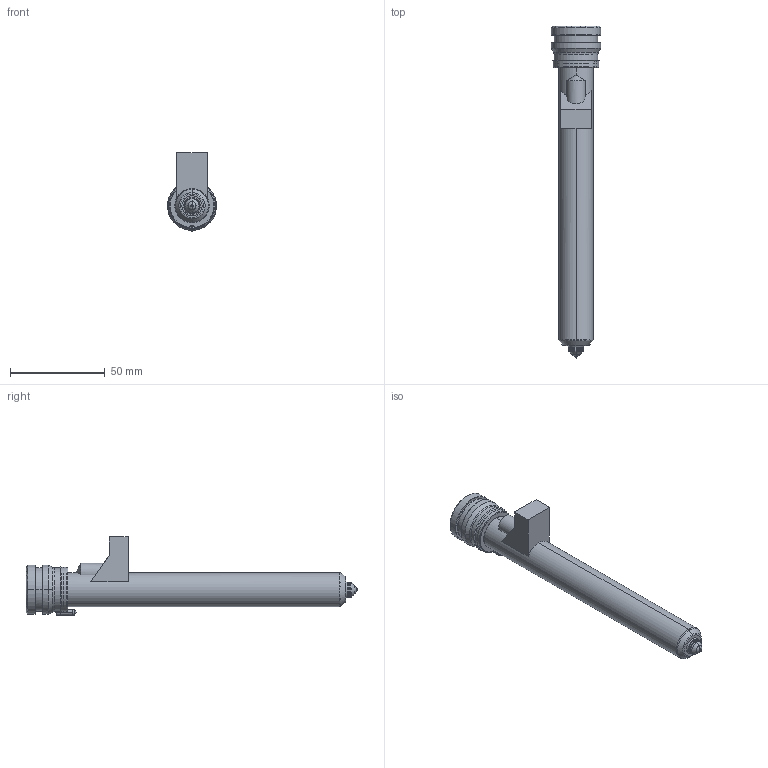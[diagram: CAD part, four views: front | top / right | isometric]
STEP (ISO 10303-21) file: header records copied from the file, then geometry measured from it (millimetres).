
FILE_DESCRIPTION((''),'2;1');
FILE_NAME('MPN-08-24-VX8-156-M','2026-02-05T13:31:37',('UPTIO'),('Thermoplay S.p.A.'),'CREO PARAMETRIC BY PTC INC, 2023494','CREO PARAMETRIC BY PTC INC, 2023494','');
FILE_SCHEMA(('CONFIG_CONTROL_DESIGN','SHAPE_APPEARANCE_LAYERS_GROUPS'));
Length unit declared in the file: millimetre
Products named in the file (1): MPN-08-24-VX8-156-M
Bounding box: 26 x 175.5 x 41.5 mm (x, y, z)
Volume: 32994.7 mm3; surface area: 44130.7 mm2
Topology: 2 solids, 3 shells, 529 faces, 1372 edges, 842 vertices
Faces by surface type: cylinder 174, plane 143, bspline 77, torus 60, cone 60, sphere 9, extrusion 6
Entity records: 27367 total; most frequent: CARTESIAN_POINT 11846, ORIENTED_EDGE 2726, DIRECTION 2495, EDGE_CURVE 1363, AXIS2_PLACEMENT_3D 975, VERTEX_POINT 842, EDGE_LOOP 559, VECTOR 545
